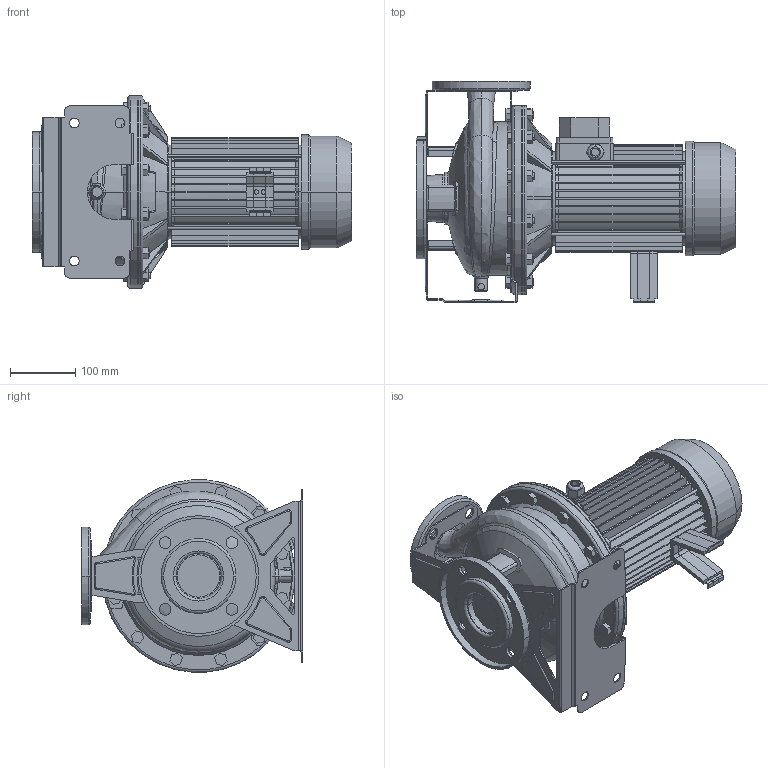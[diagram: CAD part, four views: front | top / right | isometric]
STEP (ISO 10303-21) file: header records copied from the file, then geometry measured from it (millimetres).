
FILE_DESCRIPTION((''),'2;1');
FILE_NAME('3M4_40-200_1_5_IE2_ASM','2012-03-14T',('Rosa'),('"Ebara Pumps Europe +39.444.706811"'),'PRO/ENGINEER BY PARAMETRIC TECHNOLOGY CORPORATION, 2009360','PRO/ENGINEER BY PARAMETRIC TECHNOLOGY CORPORATION, 2009360','');
FILE_SCHEMA(('AUTOMOTIVE_DESIGN { 1 0 10303 214 1 1 1 1 }'));
Length unit declared in the file: millimetre
Products named in the file (11): CORPO_40-200; ASP_40-200; FLANGIA_DIN_65; MAND_40-200; FLANGIA_DIN_40; BASE_3M_40-200; CORPO_SALDATO_40-200_ASM; SUPPORTO_3M_230_90; MEC_90X160_IE2; SOSTEGNO_72006; 3M4_40-200_1_5_IE2_ASM
Assembly tree (11 placements, depth 3):
  3M4_40-200_1_5_IE2_ASM
    CORPO_SALDATO_40-200_ASM
      CORPO_40-200
      ASP_40-200
      FLANGIA_DIN_65
      MAND_40-200
      FLANGIA_DIN_40
      BASE_3M_40-200
    SUPPORTO_3M_230_90
    MEC_90X160_IE2
    SOSTEGNO_72006  x2
Bounding box: 491 x 340 x 295.13 mm (x, y, z)
Volume: 10010658.9 mm3; surface area: 1277556.2 mm2
Topology: 13 solids, 13 shells, 1143 faces, 2915 edges, 1866 vertices
Faces by surface type: plane 635, cylinder 318, cone 90, torus 60, bspline 34, sphere 6
Entity records: 48096 total; most frequent: CARTESIAN_POINT 9525, DIRECTION 5750, ORIENTED_EDGE 5662, PRESENTATION_STYLE_ASSIGNMENT 2843, STYLED_ITEM 2843, CURVE_STYLE 2831, EDGE_CURVE 2831, AXIS2_PLACEMENT_3D 2061
